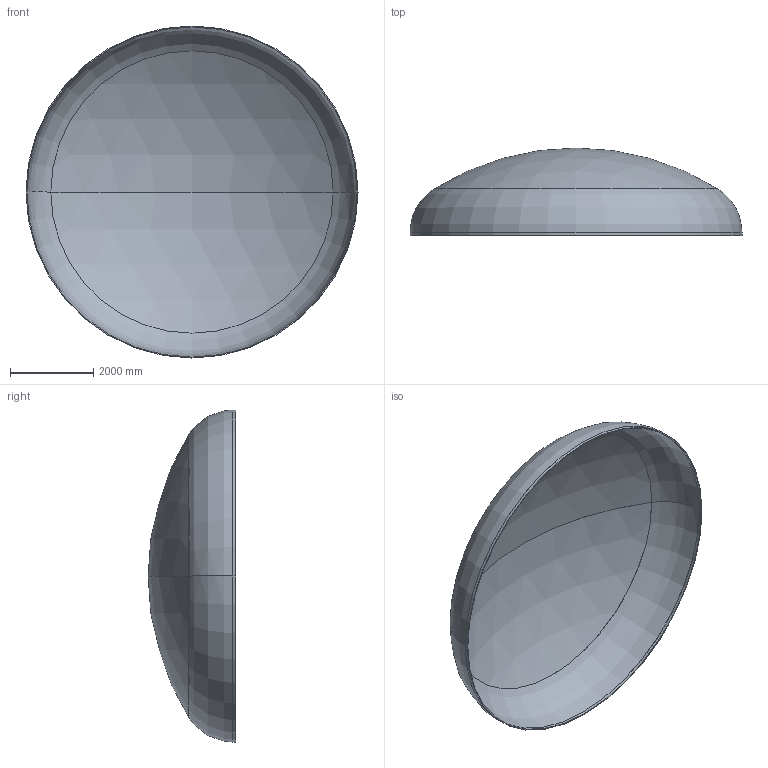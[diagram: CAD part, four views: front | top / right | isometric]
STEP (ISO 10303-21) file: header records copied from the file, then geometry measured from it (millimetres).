
FILE_DESCRIPTION (( 'STEP AP203' ), '1' );
FILE_NAME ('DIN 28013 Korbbogenform_-_Boden DIN 28013 - 8000 x 70 - I - s=21.step', '2016-07-04T10:59:20', ( '' ), ( '' ), 'SwSTEP 2.0', 'SolidWorks 2013', '' );
FILE_SCHEMA (( 'CONFIG_CONTROL_DESIGN' ));
Length unit declared in the file: millimetre
Products named in the file (1): DIN 28013 Korbbogenform_-_Boden DIN 28013 - 8000 x 70 - I - s=21
Bounding box: 8000 x 2112.43 x 8000 mm (x, y, z)
Volume: 1493393736.5 mm3; surface area: 142755242.4 mm2
Topology: 1 solids, 1 shells, 13 faces, 24 edges, 14 vertices
Faces by surface type: torus 4, cylinder 4, sphere 4, plane 1
Entity records: 407 total; most frequent: DIRECTION 72, CARTESIAN_POINT 52, ORIENTED_EDGE 48, AXIS2_PLACEMENT_3D 34, EDGE_CURVE 24, CIRCLE 20, EDGE_LOOP 14, VERTEX_POINT 14
